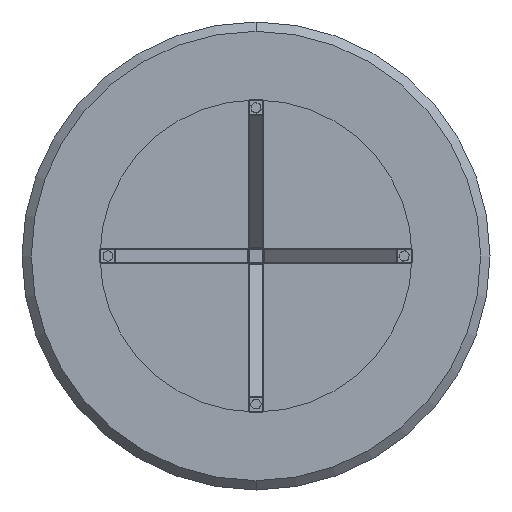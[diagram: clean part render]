
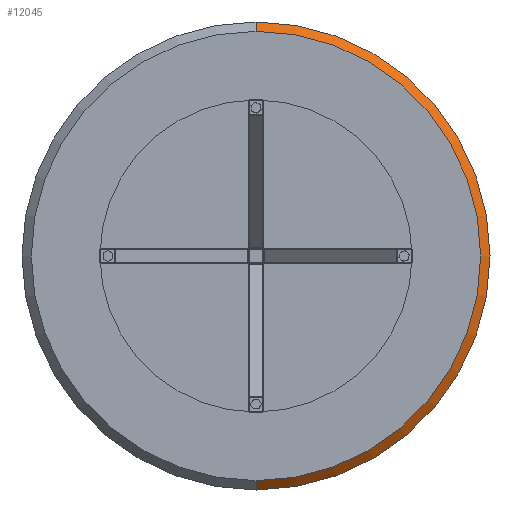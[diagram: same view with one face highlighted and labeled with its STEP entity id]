
A CAD part, front view. The second image highlights one B-rep face of the part: STEP entity #12045.
In plain terms, the highlighted conical face has half-angle 45 degrees and reference radius 375 mm.
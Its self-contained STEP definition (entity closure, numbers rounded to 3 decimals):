
#1335 = LINE ( 'NONE', #25479, #3277 ) ;
#1467 = DIRECTION ( 'NONE',  ( 0., 0.707, 0.707 ) ) ;
#2650 = DIRECTION ( 'NONE',  ( 0., 0., 1. ) ) ;
#3277 = VECTOR ( 'NONE', #1467, 1000. ) ;
#3683 = ORIENTED_EDGE ( 'NONE', *, *, #23926, .F. ) ;
#4538 = LINE ( 'NONE', #8630, #7138 ) ;
#4912 = EDGE_CURVE ( 'NONE', #17800, #20623, #1335, .T. ) ;
#6009 = CARTESIAN_POINT ( 'NONE',  ( 0., 15., 0. ) ) ;
#6412 = DIRECTION ( 'NONE',  ( 0., 0.707, -0.707 ) ) ;
#7138 = VECTOR ( 'NONE', #6412, 1000. ) ;
#7448 = EDGE_LOOP ( 'NONE', ( #10019, #10460, #3683, #22855 ) ) ;
#8630 = CARTESIAN_POINT ( 'NONE',  ( 0., 15., -375. ) ) ;
#9871 = CIRCLE ( 'NONE', #25376, 360. ) ;
#10019 = ORIENTED_EDGE ( 'NONE', *, *, #12513, .F. ) ;
#10460 = ORIENTED_EDGE ( 'NONE', *, *, #18838, .T. ) ;
#12045 = ADVANCED_FACE ( 'NONE', ( #17676 ), #21189, .T. ) ;
#12137 = CARTESIAN_POINT ( 'NONE',  ( 0., 0., 0. ) ) ;
#12513 = EDGE_CURVE ( 'NONE', #13088, #17800, #9871, .T. ) ;
#12643 = CIRCLE ( 'NONE', #21421, 375. ) ;
#12792 = CARTESIAN_POINT ( 'NONE',  ( 0., 15., 0. ) ) ;
#13088 = VERTEX_POINT ( 'NONE', #13464 ) ;
#13130 = CARTESIAN_POINT ( 'NONE',  ( 0., 15., 375. ) ) ;
#13464 = CARTESIAN_POINT ( 'NONE',  ( 0., 0., -360. ) ) ;
#14240 = DIRECTION ( 'NONE',  ( 0., 0., 1. ) ) ;
#14505 = DIRECTION ( 'NONE',  ( 0., 1., 0. ) ) ;
#17676 = FACE_OUTER_BOUND ( 'NONE', #7448, .T. ) ;
#17800 = VERTEX_POINT ( 'NONE', #25651 ) ;
#17803 = DIRECTION ( 'NONE',  ( 0., 1., 0. ) ) ;
#18269 = DIRECTION ( 'NONE',  ( 0., -1., 0. ) ) ;
#18838 = EDGE_CURVE ( 'NONE', #13088, #20937, #4538, .T. ) ;
#20623 = VERTEX_POINT ( 'NONE', #13130 ) ;
#20937 = VERTEX_POINT ( 'NONE', #24499 ) ;
#21189 = CONICAL_SURFACE ( 'NONE', #21612, 375., 0.785 ) ;
#21421 = AXIS2_PLACEMENT_3D ( 'NONE', #12792, #14505, #2650 ) ;
#21612 = AXIS2_PLACEMENT_3D ( 'NONE', #6009, #17803, #23696 ) ;
#22855 = ORIENTED_EDGE ( 'NONE', *, *, #4912, .F. ) ;
#23696 = DIRECTION ( 'NONE',  ( 0., 0., 1. ) ) ;
#23926 = EDGE_CURVE ( 'NONE', #20623, #20937, #12643, .T. ) ;
#24499 = CARTESIAN_POINT ( 'NONE',  ( 0., 15., -375. ) ) ;
#25376 = AXIS2_PLACEMENT_3D ( 'NONE', #12137, #18269, #14240 ) ;
#25479 = CARTESIAN_POINT ( 'NONE',  ( 0., 15., 375. ) ) ;
#25651 = CARTESIAN_POINT ( 'NONE',  ( 0., 0., 360. ) ) ;
